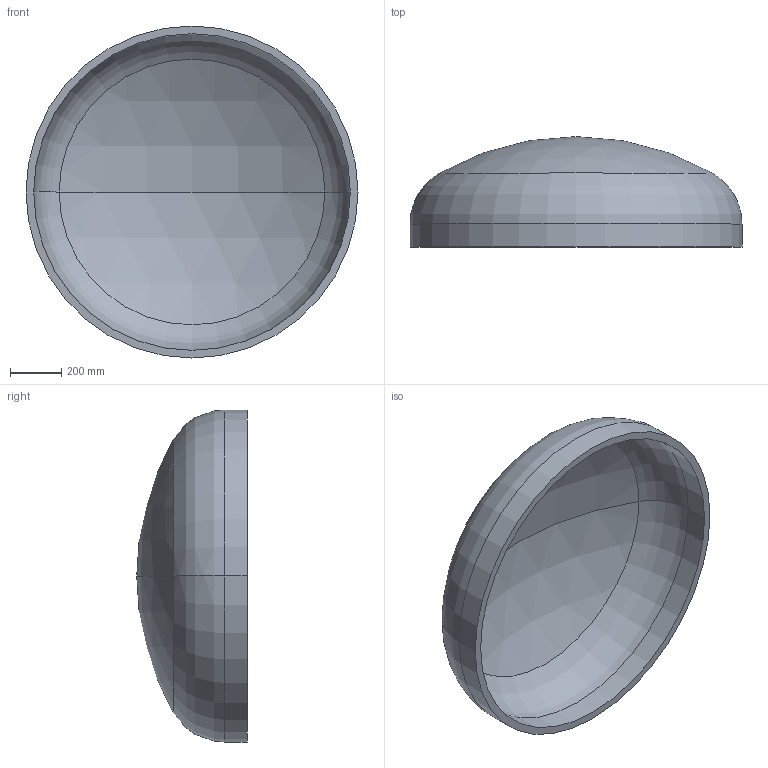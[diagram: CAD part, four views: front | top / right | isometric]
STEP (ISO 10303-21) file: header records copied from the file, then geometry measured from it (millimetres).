
FILE_DESCRIPTION (( 'STEP AP203' ), '1' );
FILE_NAME ('DIN 28013 Korbbogenform_-_Boden DIN 28013 - 1300 x 90 - I - s=30.step', '2016-07-01T09:48:14', ( '' ), ( '' ), 'SwSTEP 2.0', 'SolidWorks 2013', '' );
FILE_SCHEMA (( 'CONFIG_CONTROL_DESIGN' ));
Length unit declared in the file: millimetre
Products named in the file (1): DIN 28013 Korbbogenform_-_Boden DIN 28013 - 1300 x 90 - I - s=30
Bounding box: 1300 x 432.54 x 1300 mm (x, y, z)
Volume: 64264903.7 mm3; surface area: 4405905.2 mm2
Topology: 1 solids, 1 shells, 13 faces, 24 edges, 14 vertices
Faces by surface type: torus 4, cylinder 4, sphere 4, plane 1
Entity records: 407 total; most frequent: DIRECTION 72, CARTESIAN_POINT 52, ORIENTED_EDGE 48, AXIS2_PLACEMENT_3D 34, EDGE_CURVE 24, CIRCLE 20, EDGE_LOOP 14, VERTEX_POINT 14
